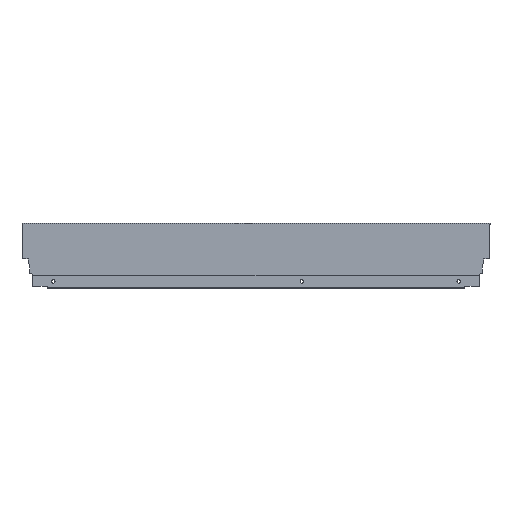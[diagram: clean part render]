
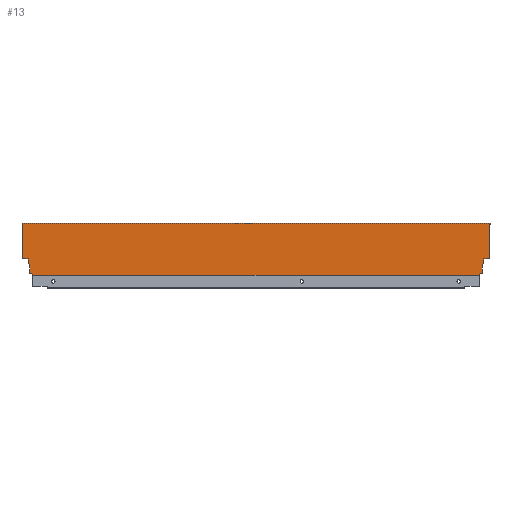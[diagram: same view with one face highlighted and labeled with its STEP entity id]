
A CAD part, top view. The second image highlights one B-rep face of the part: STEP entity #13.
In plain terms, the highlighted planar face has unit normal (0, 0, 1).
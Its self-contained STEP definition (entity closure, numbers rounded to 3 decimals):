
#13 = ADVANCED_FACE ( 'NONE', ( #263 ), #764, .T. ) ;
#79 = ORIENTED_EDGE ( 'NONE', *, *, #1522, .F. ) ;
#80 = ORIENTED_EDGE ( 'NONE', *, *, #1527, .F. ) ;
#81 = ORIENTED_EDGE ( 'NONE', *, *, #1526, .T. ) ;
#94 = VECTOR ( 'NONE', #1292, 1000. ) ;
#95 = VECTOR ( 'NONE', #1277, 1000. ) ;
#96 = LINE ( 'NONE', #1278, #606 ) ;
#97 = LINE ( 'NONE', #1270, #230 ) ;
#98 = VECTOR ( 'NONE', #1259, 1000. ) ;
#99 = VECTOR ( 'NONE', #1257, 1000. ) ;
#100 = LINE ( 'NONE', #1256, #99 ) ;
#101 = LINE ( 'NONE', #1266, #228 ) ;
#102 = VECTOR ( 'NONE', #1255, 1000. ) ;
#107 = LINE ( 'NONE', #1258, #226 ) ;
#109 = LINE ( 'NONE', #1254, #98 ) ;
#119 = LINE ( 'NONE', #1248, #102 ) ;
#166 = LINE ( 'NONE', #1171, #173 ) ;
#173 = VECTOR ( 'NONE', #1181, 1000. ) ;
#218 = LINE ( 'NONE', #1262, #223 ) ;
#219 = VECTOR ( 'NONE', #1261, 1000. ) ;
#220 = LINE ( 'NONE', #1260, #219 ) ;
#221 = VECTOR ( 'NONE', #1265, 1000. ) ;
#222 = LINE ( 'NONE', #1264, #221 ) ;
#223 = VECTOR ( 'NONE', #1263, 1000. ) ;
#224 = LINE ( 'NONE', #1268, #229 ) ;
#225 = LINE ( 'NONE', #1274, #95 ) ;
#226 = VECTOR ( 'NONE', #1267, 1000. ) ;
#227 = LINE ( 'NONE', #1276, #604 ) ;
#228 = VECTOR ( 'NONE', #1271, 1000. ) ;
#229 = VECTOR ( 'NONE', #1269, 1000. ) ;
#230 = VECTOR ( 'NONE', #1275, 1000. ) ;
#231 = VECTOR ( 'NONE', #1273, 1000. ) ;
#232 = LINE ( 'NONE', #1272, #231 ) ;
#263 = FACE_OUTER_BOUND ( 'NONE', #316, .T. ) ;
#316 = EDGE_LOOP ( 'NONE', ( #79, #80, #81, #357, #358, #359, #360, #361, #362, #363, #364, #365, #366, #367, #374, #368, #369, #370 ) ) ;
#355 = VECTOR ( 'NONE', #1286, 1000. ) ;
#356 = LINE ( 'NONE', #1285, #355 ) ;
#357 = ORIENTED_EDGE ( 'NONE', *, *, #1525, .T. ) ;
#358 = ORIENTED_EDGE ( 'NONE', *, *, #1524, .F. ) ;
#359 = ORIENTED_EDGE ( 'NONE', *, *, #1531, .F. ) ;
#360 = ORIENTED_EDGE ( 'NONE', *, *, #1520, .F. ) ;
#361 = ORIENTED_EDGE ( 'NONE', *, *, #1523, .F. ) ;
#362 = ORIENTED_EDGE ( 'NONE', *, *, #1518, .F. ) ;
#363 = ORIENTED_EDGE ( 'NONE', *, *, #1528, .T. ) ;
#364 = ORIENTED_EDGE ( 'NONE', *, *, #1516, .F. ) ;
#365 = ORIENTED_EDGE ( 'NONE', *, *, #1514, .F. ) ;
#366 = ORIENTED_EDGE ( 'NONE', *, *, #1521, .F. ) ;
#367 = ORIENTED_EDGE ( 'NONE', *, *, #1519, .F. ) ;
#368 = ORIENTED_EDGE ( 'NONE', *, *, #1479, .F. ) ;
#369 = ORIENTED_EDGE ( 'NONE', *, *, #1515, .F. ) ;
#370 = ORIENTED_EDGE ( 'NONE', *, *, #1513, .F. ) ;
#374 = ORIENTED_EDGE ( 'NONE', *, *, #1517, .F. ) ;
#604 = VECTOR ( 'NONE', #1280, 1000. ) ;
#605 = LINE ( 'NONE', #1291, #94 ) ;
#606 = VECTOR ( 'NONE', #1282, 1000. ) ;
#607 = LINE ( 'NONE', #1283, #608 ) ;
#608 = VECTOR ( 'NONE', #1284, 1000. ) ;
#764 = PLANE ( 'NONE',  #1618 ) ;
#771 = VERTEX_POINT ( 'NONE', #1053 ) ;
#773 = VERTEX_POINT ( 'NONE', #1050 ) ;
#774 = VERTEX_POINT ( 'NONE', #1068 ) ;
#776 = VERTEX_POINT ( 'NONE', #1065 ) ;
#778 = VERTEX_POINT ( 'NONE', #1071 ) ;
#786 = VERTEX_POINT ( 'NONE', #1079 ) ;
#791 = VERTEX_POINT ( 'NONE', #1084 ) ;
#792 = VERTEX_POINT ( 'NONE', #1085 ) ;
#793 = VERTEX_POINT ( 'NONE', #1086 ) ;
#796 = VERTEX_POINT ( 'NONE', #1089 ) ;
#797 = VERTEX_POINT ( 'NONE', #1090 ) ;
#799 = VERTEX_POINT ( 'NONE', #1092 ) ;
#800 = VERTEX_POINT ( 'NONE', #1093 ) ;
#802 = VERTEX_POINT ( 'NONE', #1095 ) ;
#806 = VERTEX_POINT ( 'NONE', #1099 ) ;
#813 = VERTEX_POINT ( 'NONE', #1106 ) ;
#814 = VERTEX_POINT ( 'NONE', #1107 ) ;
#815 = VERTEX_POINT ( 'NONE', #1108 ) ;
#867 = CARTESIAN_POINT ( 'NONE',  ( -611., 0., 7.5 ) ) ;
#882 = DIRECTION ( 'NONE',  ( 0., 0., 1. ) ) ;
#883 = DIRECTION ( 'NONE',  ( 1., 0., 0. ) ) ;
#1050 = CARTESIAN_POINT ( 'NONE',  ( -602.1, 10.765, 7.5 ) ) ;
#1053 = CARTESIAN_POINT ( 'NONE',  ( -597.996, 1.146, 7.5 ) ) ;
#1065 = CARTESIAN_POINT ( 'NONE',  ( -603.94, 21.2, 7.5 ) ) ;
#1068 = CARTESIAN_POINT ( 'NONE',  ( -602.1, 2.64, 7.5 ) ) ;
#1071 = CARTESIAN_POINT ( 'NONE',  ( -597.996, 0., 7.5 ) ) ;
#1079 = CARTESIAN_POINT ( 'NONE',  ( -7.06, 21.2, 7.5 ) ) ;
#1084 = CARTESIAN_POINT ( 'NONE',  ( -611., 21.2, 7.5 ) ) ;
#1085 = CARTESIAN_POINT ( 'NONE',  ( 1., 66.5, 7.5 ) ) ;
#1086 = CARTESIAN_POINT ( 'NONE',  ( -13.004, 1.146, 7.5 ) ) ;
#1089 = CARTESIAN_POINT ( 'NONE',  ( -8.9, 10.765, 7.5 ) ) ;
#1090 = CARTESIAN_POINT ( 'NONE',  ( -8.9, 2.64, 7.5 ) ) ;
#1092 = CARTESIAN_POINT ( 'NONE',  ( 1., 68., 7.5 ) ) ;
#1093 = CARTESIAN_POINT ( 'NONE',  ( 0., 66.5, 7.5 ) ) ;
#1095 = CARTESIAN_POINT ( 'NONE',  ( -13.004, 0., 7.5 ) ) ;
#1099 = CARTESIAN_POINT ( 'NONE',  ( 0., 21.2, 7.5 ) ) ;
#1106 = CARTESIAN_POINT ( 'NONE',  ( -611., 66.5, 7.5 ) ) ;
#1107 = CARTESIAN_POINT ( 'NONE',  ( -612., 66.5, 7.5 ) ) ;
#1108 = CARTESIAN_POINT ( 'NONE',  ( -612., 68., 7.5 ) ) ;
#1171 = CARTESIAN_POINT ( 'NONE',  ( 0., 0., 7.5 ) ) ;
#1181 = DIRECTION ( 'NONE',  ( 0., -1., 0. ) ) ;
#1248 = CARTESIAN_POINT ( 'NONE',  ( 1., 68., 7.5 ) ) ;
#1254 = CARTESIAN_POINT ( 'NONE',  ( 1., 66.5, 7.5 ) ) ;
#1255 = DIRECTION ( 'NONE',  ( 0., -1., 0. ) ) ;
#1256 = CARTESIAN_POINT ( 'NONE',  ( -8.9, 2.64, 7.5 ) ) ;
#1257 = DIRECTION ( 'NONE',  ( -0.94, -0.342, 0. ) ) ;
#1258 = CARTESIAN_POINT ( 'NONE',  ( -7.06, 21.2, 7.5 ) ) ;
#1259 = DIRECTION ( 'NONE',  ( -1., 0., 0. ) ) ;
#1260 = CARTESIAN_POINT ( 'NONE',  ( -13.004, 1.146, 7.5 ) ) ;
#1261 = DIRECTION ( 'NONE',  ( 0., -1., 0. ) ) ;
#1262 = CARTESIAN_POINT ( 'NONE',  ( 0., 21.2, 7.5 ) ) ;
#1263 = DIRECTION ( 'NONE',  ( -1., 0., 0. ) ) ;
#1264 = CARTESIAN_POINT ( 'NONE',  ( -597.996, 1.146, 7.5 ) ) ;
#1265 = DIRECTION ( 'NONE',  ( 0., 1., 0. ) ) ;
#1266 = CARTESIAN_POINT ( 'NONE',  ( -8.9, 10.765, 7.5 ) ) ;
#1267 = DIRECTION ( 'NONE',  ( -0.174, -0.985, 0. ) ) ;
#1268 = CARTESIAN_POINT ( 'NONE',  ( -602.1, 10.765, 7.5 ) ) ;
#1269 = DIRECTION ( 'NONE',  ( 0., 1., 0. ) ) ;
#1270 = CARTESIAN_POINT ( 'NONE',  ( -602.1, 2.64, 7.5 ) ) ;
#1271 = DIRECTION ( 'NONE',  ( 0., -1., 0. ) ) ;
#1272 = CARTESIAN_POINT ( 'NONE',  ( -611., 68., 7.5 ) ) ;
#1273 = DIRECTION ( 'NONE',  ( 1., 0., 0. ) ) ;
#1274 = CARTESIAN_POINT ( 'NONE',  ( -616., 21.2, 7.5 ) ) ;
#1275 = DIRECTION ( 'NONE',  ( -0.94, 0.342, 0. ) ) ;
#1276 = CARTESIAN_POINT ( 'NONE',  ( -611., 0., 7.5 ) ) ;
#1277 = DIRECTION ( 'NONE',  ( -1., 0., 0. ) ) ;
#1278 = CARTESIAN_POINT ( 'NONE',  ( -612., 66.5, 7.5 ) ) ;
#1280 = DIRECTION ( 'NONE',  ( 0., -1., 0. ) ) ;
#1282 = DIRECTION ( 'NONE',  ( 1., 0., 0. ) ) ;
#1283 = CARTESIAN_POINT ( 'NONE',  ( -612., 66.5, 7.5 ) ) ;
#1284 = DIRECTION ( 'NONE',  ( 0., 1., 0. ) ) ;
#1285 = CARTESIAN_POINT ( 'NONE',  ( -611., 0., 7.5 ) ) ;
#1286 = DIRECTION ( 'NONE',  ( 1., 0., 0. ) ) ;
#1291 = CARTESIAN_POINT ( 'NONE',  ( -603.94, 21.2, 7.5 ) ) ;
#1292 = DIRECTION ( 'NONE',  ( -0.174, 0.985, 0. ) ) ;
#1479 = EDGE_CURVE ( 'NONE', #800, #806, #166, .T. ) ;
#1513 = EDGE_CURVE ( 'NONE', #799, #792, #119, .T. ) ;
#1514 = EDGE_CURVE ( 'NONE', #797, #793, #100, .T. ) ;
#1515 = EDGE_CURVE ( 'NONE', #792, #800, #109, .T. ) ;
#1516 = EDGE_CURVE ( 'NONE', #793, #802, #220, .T. ) ;
#1517 = EDGE_CURVE ( 'NONE', #806, #786, #218, .T. ) ;
#1518 = EDGE_CURVE ( 'NONE', #778, #771, #222, .T. ) ;
#1519 = EDGE_CURVE ( 'NONE', #786, #796, #107, .T. ) ;
#1520 = EDGE_CURVE ( 'NONE', #774, #773, #224, .T. ) ;
#1521 = EDGE_CURVE ( 'NONE', #796, #797, #101, .T. ) ;
#1522 = EDGE_CURVE ( 'NONE', #815, #799, #232, .T. ) ;
#1523 = EDGE_CURVE ( 'NONE', #771, #774, #97, .T. ) ;
#1524 = EDGE_CURVE ( 'NONE', #776, #791, #225, .T. ) ;
#1525 = EDGE_CURVE ( 'NONE', #813, #791, #227, .T. ) ;
#1526 = EDGE_CURVE ( 'NONE', #814, #813, #96, .T. ) ;
#1527 = EDGE_CURVE ( 'NONE', #814, #815, #607, .T. ) ;
#1528 = EDGE_CURVE ( 'NONE', #778, #802, #356, .T. ) ;
#1531 = EDGE_CURVE ( 'NONE', #773, #776, #605, .T. ) ;
#1618 = AXIS2_PLACEMENT_3D ( 'NONE', #867, #882, #883 ) ;
